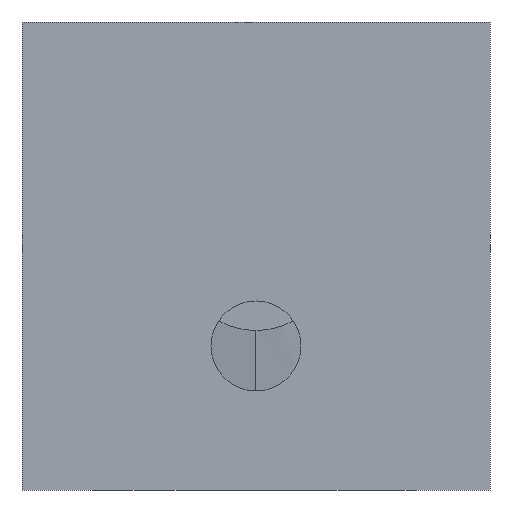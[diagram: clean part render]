
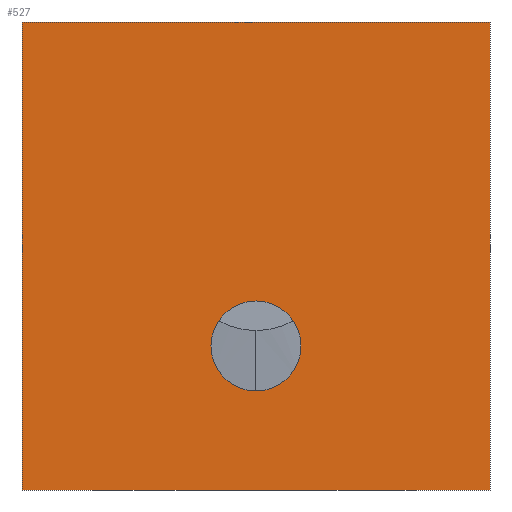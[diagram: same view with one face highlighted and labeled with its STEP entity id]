
A CAD part, front view. The second image highlights one B-rep face of the part: STEP entity #527.
In plain terms, the highlighted planar face has unit normal (0, -1, 0).
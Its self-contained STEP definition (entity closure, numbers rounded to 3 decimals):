
#117 = CARTESIAN_POINT ( 'NONE',  ( 0., 0., 26. ) ) ;
#120 = DIRECTION ( 'NONE',  ( 0., 1., 0. ) ) ;
#155 = DIRECTION ( 'NONE',  ( 0., -1., 0. ) ) ;
#161 = ORIENTED_EDGE ( 'NONE', *, *, #811, .F. ) ;
#202 = FACE_OUTER_BOUND ( 'NONE', #1259, .T. ) ;
#206 = CARTESIAN_POINT ( 'NONE',  ( 0., 0., 26. ) ) ;
#229 = DIRECTION ( 'NONE',  ( 1., 0., 0. ) ) ;
#268 = ORIENTED_EDGE ( 'NONE', *, *, #902, .F. ) ;
#272 = LINE ( 'NONE', #916, #805 ) ;
#304 = CARTESIAN_POINT ( 'NONE',  ( 13., 0., 5.5 ) ) ;
#306 = EDGE_CURVE ( 'NONE', #393, #911, #722, .T. ) ;
#346 = AXIS2_PLACEMENT_3D ( 'NONE', #117, #120, #844 ) ;
#348 = CARTESIAN_POINT ( 'NONE',  ( 13., 0., 10.5 ) ) ;
#373 = ORIENTED_EDGE ( 'NONE', *, *, #587, .T. ) ;
#393 = VERTEX_POINT ( 'NONE', #304 ) ;
#416 = CIRCLE ( 'NONE', #425, 2.5 ) ;
#425 = AXIS2_PLACEMENT_3D ( 'NONE', #782, #155, #879 ) ;
#454 = CARTESIAN_POINT ( 'NONE',  ( 26., 0., 0. ) ) ;
#468 = LINE ( 'NONE', #1056, #991 ) ;
#502 = DIRECTION ( 'NONE',  ( 0., 0., -1. ) ) ;
#527 = ADVANCED_FACE ( 'NONE', ( #726, #202 ), #1254, .F. ) ;
#568 = CARTESIAN_POINT ( 'NONE',  ( 13., 0., 8. ) ) ;
#575 = ORIENTED_EDGE ( 'NONE', *, *, #943, .F. ) ;
#587 = EDGE_CURVE ( 'NONE', #679, #1305, #963, .T. ) ;
#602 = VERTEX_POINT ( 'NONE', #206 ) ;
#632 = VERTEX_POINT ( 'NONE', #835 ) ;
#679 = VERTEX_POINT ( 'NONE', #839 ) ;
#680 = DIRECTION ( 'NONE',  ( 0., 0., -1. ) ) ;
#681 = EDGE_LOOP ( 'NONE', ( #719, #268 ) ) ;
#691 = VECTOR ( 'NONE', #229, 1000. ) ;
#694 = AXIS2_PLACEMENT_3D ( 'NONE', #568, #1289, #680 ) ;
#719 = ORIENTED_EDGE ( 'NONE', *, *, #306, .F. ) ;
#722 = CIRCLE ( 'NONE', #694, 2.5 ) ;
#726 = FACE_BOUND ( 'NONE', #681, .T. ) ;
#757 = CARTESIAN_POINT ( 'NONE',  ( 0., 0., 0. ) ) ;
#768 = LINE ( 'NONE', #1055, #1032 ) ;
#782 = CARTESIAN_POINT ( 'NONE',  ( 13., 0., 8. ) ) ;
#805 = VECTOR ( 'NONE', #502, 1000. ) ;
#811 = EDGE_CURVE ( 'NONE', #632, #1305, #272, .T. ) ;
#835 = CARTESIAN_POINT ( 'NONE',  ( 26., 0., 26. ) ) ;
#839 = CARTESIAN_POINT ( 'NONE',  ( 0., 0., 0. ) ) ;
#844 = DIRECTION ( 'NONE',  ( 0., 0., 1. ) ) ;
#879 = DIRECTION ( 'NONE',  ( 0., 0., -1. ) ) ;
#902 = EDGE_CURVE ( 'NONE', #911, #393, #416, .T. ) ;
#911 = VERTEX_POINT ( 'NONE', #348 ) ;
#916 = CARTESIAN_POINT ( 'NONE',  ( 26., 0., 26. ) ) ;
#943 = EDGE_CURVE ( 'NONE', #602, #632, #468, .T. ) ;
#963 = LINE ( 'NONE', #757, #691 ) ;
#991 = VECTOR ( 'NONE', #1161, 1000. ) ;
#1032 = VECTOR ( 'NONE', #1159, 1000. ) ;
#1033 = ORIENTED_EDGE ( 'NONE', *, *, #1085, .T. ) ;
#1055 = CARTESIAN_POINT ( 'NONE',  ( 0., 0., 26. ) ) ;
#1056 = CARTESIAN_POINT ( 'NONE',  ( 0., 0., 26. ) ) ;
#1085 = EDGE_CURVE ( 'NONE', #602, #679, #768, .T. ) ;
#1159 = DIRECTION ( 'NONE',  ( 0., 0., -1. ) ) ;
#1161 = DIRECTION ( 'NONE',  ( 1., 0., 0. ) ) ;
#1254 = PLANE ( 'NONE',  #346 ) ;
#1259 = EDGE_LOOP ( 'NONE', ( #373, #161, #575, #1033 ) ) ;
#1289 = DIRECTION ( 'NONE',  ( 0., -1., 0. ) ) ;
#1305 = VERTEX_POINT ( 'NONE', #454 ) ;
